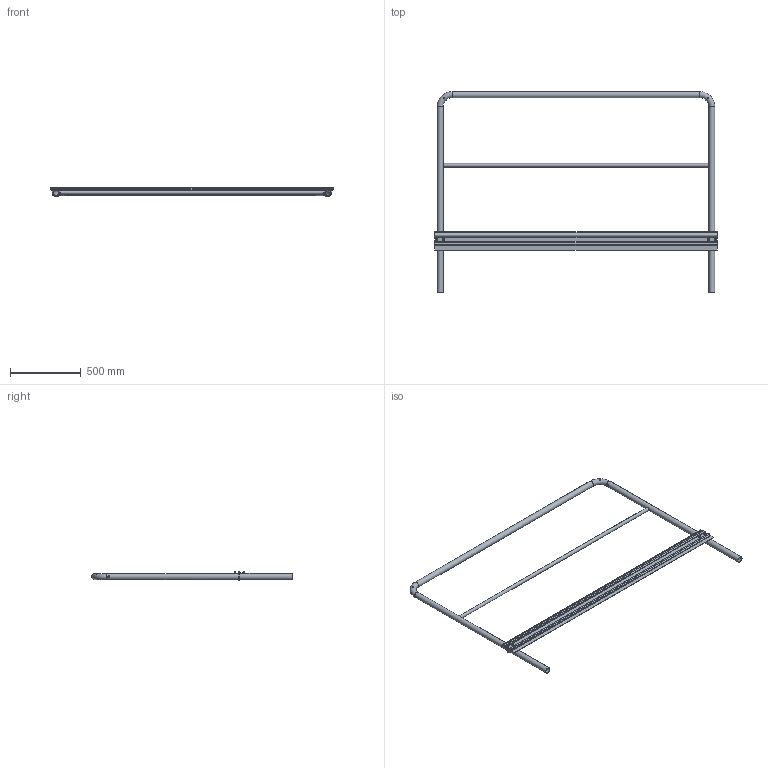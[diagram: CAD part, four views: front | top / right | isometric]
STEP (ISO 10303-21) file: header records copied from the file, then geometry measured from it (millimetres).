
FILE_DESCRIPTION((''),'2;1');
FILE_NAME('S:\Användarkataloger\AndreasA\Mina Inventor filer\Räcken\STEP\modul_ind_slist_2000-1400.stp','2010-09-07T13:16:44',('AndreasA'),(''),'Autodesk Inventor 2011','Autodesk Inventor 2011','');
FILE_SCHEMA(('AUTOMOTIVE_DESIGN { 1 0 10303 214 1 1 1 1 }'));
Length unit declared in the file: millimetre
Products named in the file (9): modul_ind_slist_2000-1400; modul_ind_2000-1400; handledare_modul_2000-1400; mellanliggare_modul_2000; sparklist_k130_modul_2000; bygelskruv_U42_kpl; bygelskruv_U42; SS 3576 8; ISO 4032 M8
Assembly tree (11 placements, depth 3):
  modul_ind_slist_2000-1400
    modul_ind_2000-1400
      handledare_modul_2000-1400
      mellanliggare_modul_2000
    sparklist_k130_modul_2000
    bygelskruv_U42_kpl  x2
      bygelskruv_U42
      SS 3576 8
      ISO 4032 M8
Bounding box: 1996 x 1421.2 x 64.99 mm (x, y, z)
Volume: 2195071.2 mm3; surface area: 2056488.9 mm2
Topology: 13 solids, 13 shells, 148 faces, 350 edges, 224 vertices
Faces by surface type: plane 66, cylinder 52, cone 24, torus 6
Full cylindrical faces by diameter (mm): 6.647 x4, 7 x4, 8 x4, 8.4 x4, 10 x4, 11 x8, 16 x4, 21 x1, 25 x1, 38.4 x3, 42.4 x3
Entity records: 3275 total; most frequent: CARTESIAN_POINT 1136, DIRECTION 414, ORIENTED_EDGE 324, AXIS2_PLACEMENT_3D 174, EDGE_CURVE 162, EDGE_LOOP 158, VERTEX_POINT 128, FACE_OUTER_BOUND 86
